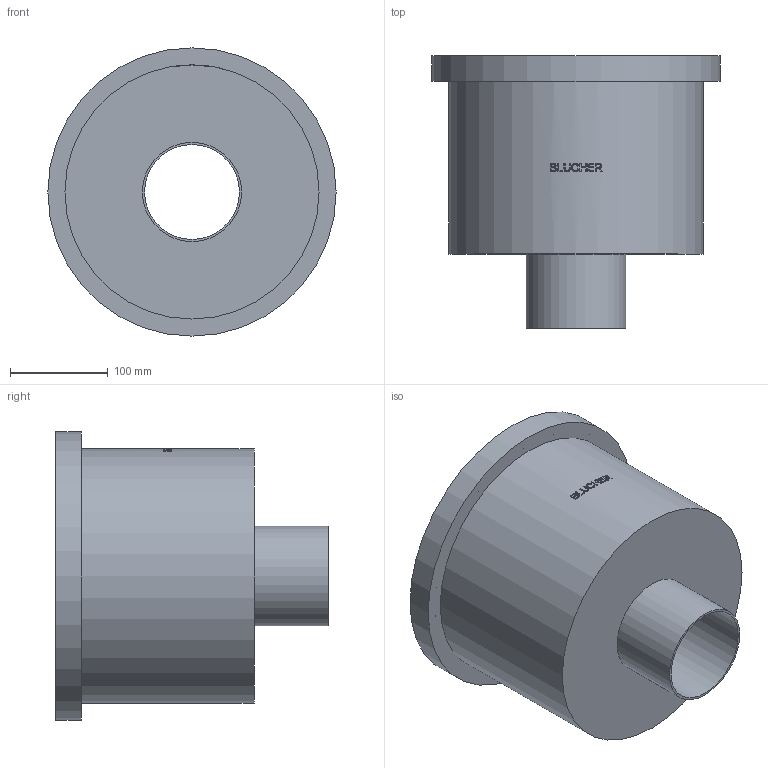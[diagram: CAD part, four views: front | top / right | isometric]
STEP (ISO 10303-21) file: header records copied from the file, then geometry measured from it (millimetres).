
FILE_DESCRIPTION((''),'2;1');
FILE_NAME('C:\Drawings\3D_CAD_Models\Blucher\BFD_Floor Drains_Complete_091119\BFD-400\WebsiteFiles\3D\STEP\BFD-444.stp','2009-11-30T08:22:38',('hofmansp'),(''),'Autodesk Inventor 2010','Autodesk Inventor 2010','');
FILE_SCHEMA(('AUTOMOTIVE_DESIGN { 1 0 10303 214 1 1 1 1 }'));
Length unit declared in the file: inch
Products named in the file (1): BFD-444
Bounding box: 295 x 279 x 295 mm (x, y, z)
Volume: 664501.6 mm3; surface area: 501946.4 mm2
Topology: 1 solids, 1 shells, 110 faces, 282 edges, 188 vertices
Faces by surface type: plane 60, bspline 34, cylinder 16
Full cylindrical faces by diameter (mm): 97 x1, 101.6 x1, 256.25 x1, 260 x1, 274.25 x1, 295 x1
Entity records: 14090 total; most frequent: CARTESIAN_POINT 11678, ORIENTED_EDGE 552, DIRECTION 364, EDGE_CURVE 276, VERTEX_POINT 188, EDGE_LOOP 132, AXIS2_PLACEMENT_3D 124, VECTOR 116
